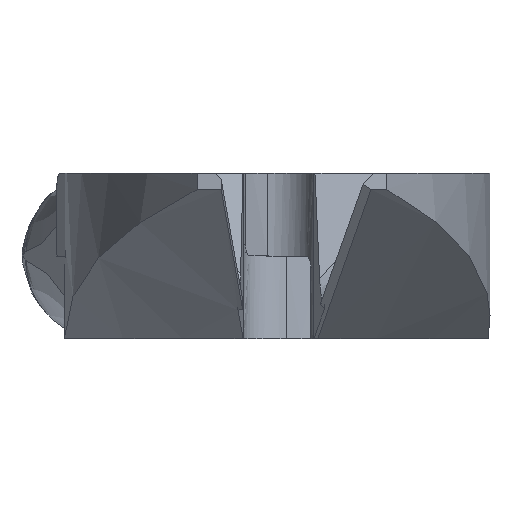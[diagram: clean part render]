
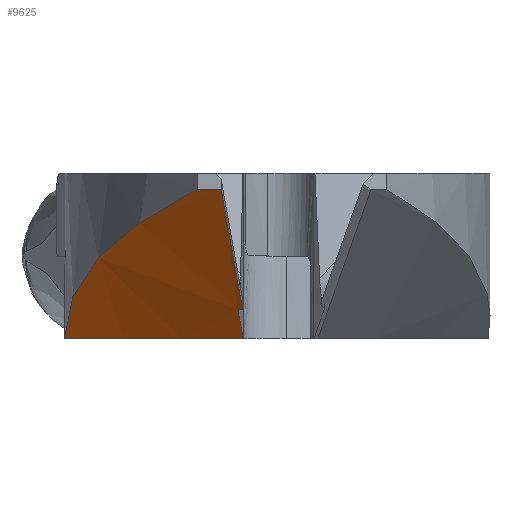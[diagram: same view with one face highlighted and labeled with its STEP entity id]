
A CAD part, left-side view. The second image highlights one B-rep face of the part: STEP entity #9625.
In plain terms, the highlighted cylindrical face has radius 45 mm (diameter 90 mm), a partial arc.
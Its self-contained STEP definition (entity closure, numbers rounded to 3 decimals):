
#65 = VERTEX_POINT ( 'NONE', #6617 ) ;
#509 = CARTESIAN_POINT ( 'NONE',  ( -13.124, 0., 1.224 ) ) ;
#543 = CYLINDRICAL_SURFACE ( 'NONE', #4136, 45. ) ;
#609 = CARTESIAN_POINT ( 'NONE',  ( -8.844, 7.905, 0. ) ) ;
#642 = CARTESIAN_POINT ( 'NONE',  ( -10.229, 7.784, 0.622 ) ) ;
#812 = DIRECTION ( 'NONE',  ( 0.423, 0., 0.906 ) ) ;
#1245 = CARTESIAN_POINT ( 'NONE',  ( -18.207, 5.19, 3.924 ) ) ;
#1384 = CARTESIAN_POINT ( 'NONE',  ( -24., 0., 6.295 ) ) ;
#1415 = CARTESIAN_POINT ( 'NONE',  ( -24., 0.339, 6.295 ) ) ;
#1431 = CARTESIAN_POINT ( 'NONE',  ( -24., 0., 6.295 ) ) ;
#2070 = CARTESIAN_POINT ( 'NONE',  ( -20.061, 4.123, 4.665 ) ) ;
#2188 = EDGE_CURVE ( 'NONE', #5454, #4763, #8739, .T. ) ;
#2249 = CARTESIAN_POINT ( 'NONE',  ( -24., 0.679, 6.299 ) ) ;
#2724 = VERTEX_POINT ( 'NONE', #5441 ) ;
#2852 = CARTESIAN_POINT ( 'NONE',  ( -22.954, 2.024, 5.845 ) ) ;
#3686 = ORIENTED_EDGE ( 'NONE', *, *, #6085, .F. ) ;
#3899 = CARTESIAN_POINT ( 'NONE',  ( -8.844, 7.905, 0. ) ) ;
#4136 = AXIS2_PLACEMENT_3D ( 'NONE', #8925, #4265, #812 ) ;
#4265 = DIRECTION ( 'NONE',  ( -0.906, 0., 0.423 ) ) ;
#4446 = LINE ( 'NONE', #6615, #6369 ) ;
#4520 = CARTESIAN_POINT ( 'NONE',  ( -13.124, 0.133, 1.224 ) ) ;
#4615 = CARTESIAN_POINT ( 'NONE',  ( -10.499, 0.2, 0. ) ) ;
#4660 = B_SPLINE_CURVE_WITH_KNOTS ( 'NONE', 3,
 ( #1384, #1415, #2249, #7928 ),
 .UNSPECIFIED., .F., .F.,
 ( 4, 4 ),
 ( 0., 1. ),
 .UNSPECIFIED. ) ;
#4730 = CARTESIAN_POINT ( 'NONE',  ( -11.595, 7.549, 1.213 ) ) ;
#4763 = VERTEX_POINT ( 'NONE', #5193 ) ;
#4827 = FACE_OUTER_BOUND ( 'NONE', #9369, .T. ) ;
#5135 = ORIENTED_EDGE ( 'NONE', *, *, #6290, .F. ) ;
#5193 = CARTESIAN_POINT ( 'NONE',  ( -13.124, 0., 1.224 ) ) ;
#5344 = CARTESIAN_POINT ( 'NONE',  ( -13.124, 0.066, 1.224 ) ) ;
#5432 = CARTESIAN_POINT ( 'NONE',  ( -9.919, 5.36, 0. ) ) ;
#5441 = CARTESIAN_POINT ( 'NONE',  ( -10.499, 0.2, 0. ) ) ;
#5454 = VERTEX_POINT ( 'NONE', #8825 ) ;
#5545 = CARTESIAN_POINT ( 'NONE',  ( -15.615, 6.389, 2.884 ) ) ;
#5585 = B_SPLINE_CURVE_WITH_KNOTS ( 'NONE', 3,
 ( #8661, #8695, #6277, #1431 ),
 .UNSPECIFIED., .F., .F.,
 ( 4, 4 ),
 ( 0., 1. ),
 .UNSPECIFIED. ) ;
#5673 = CARTESIAN_POINT ( 'NONE',  ( -17.566, 5.512, 3.668 ) ) ;
#6085 = EDGE_CURVE ( 'NONE', #2724, #9401, #8301, .T. ) ;
#6277 = CARTESIAN_POINT ( 'NONE',  ( -20.375, 0., 4.605 ) ) ;
#6290 = EDGE_CURVE ( 'NONE', #9401, #9716, #7205, .T. ) ;
#6369 = VECTOR ( 'NONE', #7423, 1000. ) ;
#6615 = CARTESIAN_POINT ( 'NONE',  ( -16.572, 0.2, 2.832 ) ) ;
#6617 = CARTESIAN_POINT ( 'NONE',  ( -24., 0., 6.295 ) ) ;
#6736 = EDGE_CURVE ( 'NONE', #4763, #65, #5585, .T. ) ;
#6821 = CARTESIAN_POINT ( 'NONE',  ( -24., 1.018, 6.308 ) ) ;
#6916 = CARTESIAN_POINT ( 'NONE',  ( -19.454, 4.496, 4.422 ) ) ;
#7205 = B_SPLINE_CURVE_WITH_KNOTS ( 'NONE', 3,
 ( #3899, #642, #4730, #10419, #5545, #5673, #1245, #6916, #2070, #7732, #2852, #8546 ),
 .UNSPECIFIED., .F., .F.,
 ( 4, 2, 2, 2, 2, 4 ),
 ( 0., 0.005, 0.009, 0.011, 0.014, 0.018 ),
 .UNSPECIFIED. ) ;
#7423 = DIRECTION ( 'NONE',  ( -0.906, 0., 0.423 ) ) ;
#7732 = CARTESIAN_POINT ( 'NONE',  ( -21.836, 2.926, 5.383 ) ) ;
#7864 = ORIENTED_EDGE ( 'NONE', *, *, #9054, .T. ) ;
#7928 = CARTESIAN_POINT ( 'NONE',  ( -24., 1.018, 6.308 ) ) ;
#8301 =( BOUNDED_CURVE ( )  B_SPLINE_CURVE ( 3, ( #4615, #10310, #5432, #609 ),
 .UNSPECIFIED., .F., .T. ) 
 B_SPLINE_CURVE_WITH_KNOTS ( ( 4, 4 ),
 ( 0.004, 0.177 ),
 .UNSPECIFIED. ) 
 CURVE ( )  GEOMETRIC_REPRESENTATION_ITEM ( )  RATIONAL_B_SPLINE_CURVE ( ( 1., 0.998, 0.998, 1. ) ) 
 REPRESENTATION_ITEM ( '' )  );
#8442 = ORIENTED_EDGE ( 'NONE', *, *, #2188, .T. ) ;
#8546 = CARTESIAN_POINT ( 'NONE',  ( -24., 1.018, 6.308 ) ) ;
#8661 = CARTESIAN_POINT ( 'NONE',  ( -13.124, 0., 1.224 ) ) ;
#8695 = CARTESIAN_POINT ( 'NONE',  ( -16.75, 0., 2.914 ) ) ;
#8739 =( BOUNDED_CURVE ( )  B_SPLINE_CURVE ( 3, ( #10223, #4520, #5344, #509 ),
 .UNSPECIFIED., .F., .T. ) 
 B_SPLINE_CURVE_WITH_KNOTS ( ( 4, 4 ),
 ( 3.137, 3.142 ),
 .UNSPECIFIED. ) 
 CURVE ( )  GEOMETRIC_REPRESENTATION_ITEM ( )  RATIONAL_B_SPLINE_CURVE ( ( 1., 1., 1., 1. ) ) 
 REPRESENTATION_ITEM ( '' )  );
#8825 = CARTESIAN_POINT ( 'NONE',  ( -13.124, 0.2, 1.224 ) ) ;
#8827 = CARTESIAN_POINT ( 'NONE',  ( -8.844, 7.905, 0. ) ) ;
#8925 = CARTESIAN_POINT ( 'NONE',  ( 9.967, 0., 40.108 ) ) ;
#9054 = EDGE_CURVE ( 'NONE', #2724, #5454, #4446, .T. ) ;
#9298 = EDGE_CURVE ( 'NONE', #65, #9716, #4660, .T. ) ;
#9369 = EDGE_LOOP ( 'NONE', ( #5135, #3686, #7864, #8442, #9958, #9679 ) ) ;
#9401 = VERTEX_POINT ( 'NONE', #8827 ) ;
#9625 = ADVANCED_FACE ( 'NONE', ( #4827 ), #543, .T. ) ;
#9679 = ORIENTED_EDGE ( 'NONE', *, *, #9298, .T. ) ;
#9716 = VERTEX_POINT ( 'NONE', #6821 ) ;
#9958 = ORIENTED_EDGE ( 'NONE', *, *, #6736, .T. ) ;
#10223 = CARTESIAN_POINT ( 'NONE',  ( -13.124, 0.2, 1.224 ) ) ;
#10310 = CARTESIAN_POINT ( 'NONE',  ( -10.472, 2.785, 0. ) ) ;
#10419 = CARTESIAN_POINT ( 'NONE',  ( -14.288, 6.852, 2.344 ) ) ;
